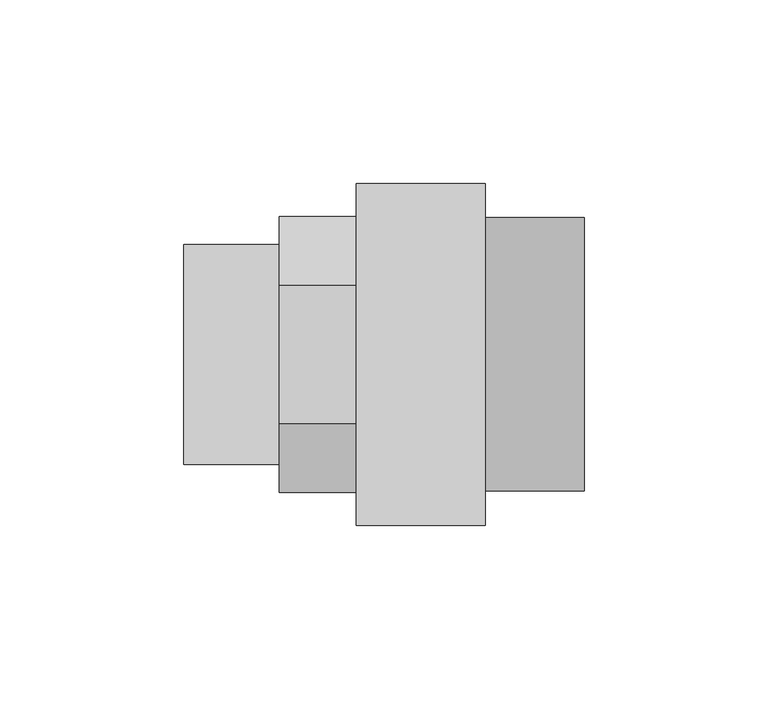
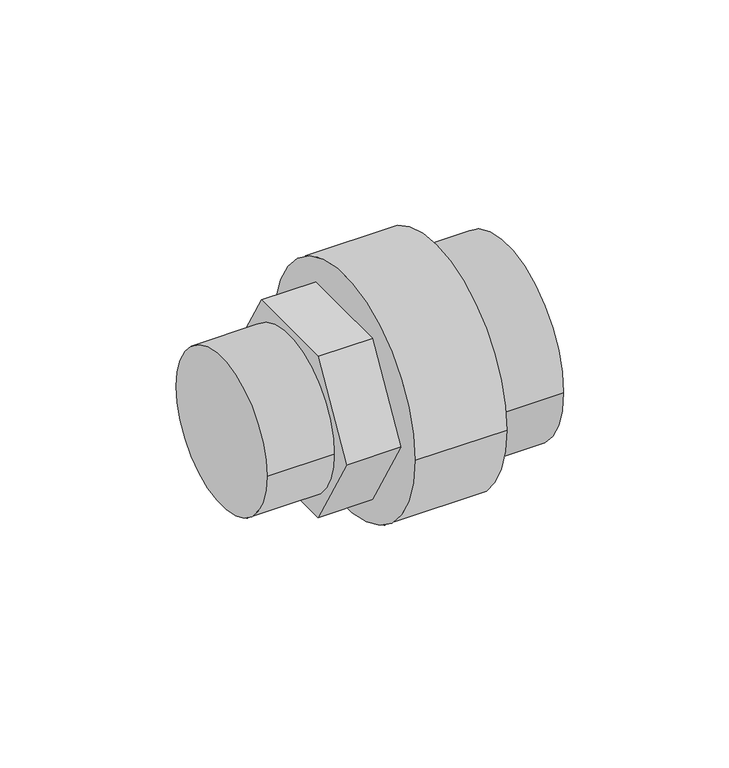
"""IFC4 building model written with IfcOpenShell, lengths in millimetres: pipe fitting geometry, 01011279 : Manchons union pour piscines FxM."""

import ifcopenshell
import ifcopenshell.guid

model = None  # the IFC model being written
_history = None  # IfcOwnerHistory: only IFC2X3 demands one
_inside = {}  # id of a spatial element -> (the spatial element, [elements in it])
_under = {}  # id of a project, library or spatial element -> (it, [spatial elements below it])
_declared = {}  # id of a project -> (the project, [libraries it declares])
_typed = {}  # id of a type object -> (the type object, [elements of that type])
_made_of = {}  # id of a material, layer set ... -> (it, [elements and type objects made of it])


def new_model(schema):
    """Start an empty IFC model of exactly this schema.

    Asked for "IFC4X3", IfcOpenShell would pick the latest addendum, in which some entities
    have other attributes; the version numbers below select the first issue.
    IFC2X3 requires an IfcOwnerHistory on every rooted entity: one is made here for all.
    """
    global model, _history
    if schema == "IFC4X3":
        model = ifcopenshell.file(schema_version=(4, 3, 0, 0))
    else:
        model = ifcopenshell.file(schema=schema)
    _inside.clear()
    _under.clear()
    _declared.clear()
    _typed.clear()
    _made_of.clear()
    _history = None
    if model.schema == "IFC2X3":
        org = make("IfcOrganization", Name="unknown")
        user = make(
            "IfcPersonAndOrganization",
            ThePerson=make("IfcPerson", FamilyName="unknown"),
            TheOrganization=org,
        )
        app = make(
            "IfcApplication",
            ApplicationDeveloper=org,
            Version="unknown",
            ApplicationFullName="unknown",
            ApplicationIdentifier="unknown",
        )
        _history = make(
            "IfcOwnerHistory",
            OwningUser=user,
            OwningApplication=app,
            ChangeAction="ADDED",
            CreationDate=0,
        )
    return model


def make(cls, **values):
    """One entity of the class cls with the attributes given. An attribute that is None is left unset."""
    return model.create_entity(
        cls, **{name: value for name, value in values.items() if value is not None}
    )


def rooted(cls, **values):
    """An entity with a GlobalId (a new one), such as an element, a storey or a relation."""
    return make(cls, GlobalId=ifcopenshell.guid.new(), OwnerHistory=_history, **values)


def si_unit(unit_type, name, prefix=None):
    """IfcSIUnit, for example si_unit("LENGTHUNIT", "METRE", prefix="MILLI")."""
    return make("IfcSIUnit", UnitType=unit_type, Prefix=prefix, Name=name)


def assignment(units):
    """IfcUnitAssignment: the units of a project."""
    return None if units is None else make("IfcUnitAssignment", Units=units)


def point(xyz):
    """IfcCartesianPoint."""
    return None if xyz is None else make("IfcCartesianPoint", Coordinates=xyz)


def direction(xyz):
    """IfcDirection."""
    return None if xyz is None else make("IfcDirection", DirectionRatios=xyz)


def frame(location, z_axis=None, x_axis=None):
    """IfcAxis2Placement3D, a coordinate frame: its origin and axes. An axis left out is left unset."""
    return make(
        "IfcAxis2Placement3D",
        Location=point(location),
        Axis=direction(z_axis),
        RefDirection=direction(x_axis),
    )


def frame_2d(location, x_axis=None):
    """IfcAxis2Placement2D, a coordinate frame in the plane: its origin and x axis."""
    return make(
        "IfcAxis2Placement2D", Location=point(location), RefDirection=direction(x_axis)
    )


def origin():
    """The frame at (0, 0, 0) with its axes left unset."""
    return frame((0.0, 0.0, 0.0))


def origin_2d():
    """The frame at (0, 0) in the plane with its x axis left unset."""
    return frame_2d((0.0, 0.0))


def place(relative_to, where):
    """IfcLocalPlacement: puts the frame where relative to a parent placement (None: the world)."""
    return make(
        "IfcLocalPlacement", PlacementRelTo=relative_to, RelativePlacement=where
    )


def context(
    kind, dimensions, precision=None, world=None, true_north=None, identifier=None
):
    """IfcGeometricRepresentationContext, for example the 3D "Model" context."""
    return make(
        "IfcGeometricRepresentationContext",
        ContextIdentifier=identifier,
        ContextType=kind,
        CoordinateSpaceDimension=dimensions,
        Precision=precision,
        WorldCoordinateSystem=world,
        TrueNorth=true_north,
    )


def project(units=None, contexts=None):
    """IfcProject with its units and contexts."""
    return rooted(
        "IfcProject",
        Name="project",
        RepresentationContexts=contexts,
        UnitsInContext=assignment(units),
    )


def spatial(cls, under=None, at=None, **own):
    """A site, building, storey or space (cls), placed at a placement, below another one or the project."""
    s = rooted(cls, ObjectPlacement=at, **own)
    if under is not None:
        _under.setdefault(under.id(), (under, []))[1].append(s)
    return s


def polyline(points):
    """IfcPolyline through the points."""
    return make("IfcPolyline", Points=[point(p) for p in points])


def circle_curve(where, radius):
    """IfcCircle in the frame where."""
    return make("IfcCircle", Position=where, Radius=radius)


def trimmed(basis, trim1, trim2, sense, master):
    """IfcTrimmedCurve: the piece of a basis curve between two trims."""
    return make(
        "IfcTrimmedCurve",
        BasisCurve=basis,
        Trim1=trim1,
        Trim2=trim2,
        SenseAgreement=sense,
        MasterRepresentation=master,
    )


def segment(curve, same_sense, transition):
    """IfcCompositeCurveSegment."""
    return make(
        "IfcCompositeCurveSegment",
        Transition=transition,
        SameSense=same_sense,
        ParentCurve=curve,
    )


def composite_curve(segments, self_intersect=None):
    """IfcCompositeCurve: segments joined end to end."""
    return make("IfcCompositeCurve", Segments=segments, SelfIntersect=self_intersect)


def outline(outer, holes=None, kind="AREA"):
    """IfcArbitraryClosedProfileDef: a profile drawn as a closed curve; with holes, ...WithVoids."""
    if holes is None:
        return make("IfcArbitraryClosedProfileDef", ProfileType=kind, OuterCurve=outer)
    return make(
        "IfcArbitraryProfileDefWithVoids",
        ProfileType=kind,
        OuterCurve=outer,
        InnerCurves=holes,
    )


def extrude(swept, where, along, depth):
    """IfcExtrudedAreaSolid: the profile swept, set in the frame where, extruded along a direction by depth."""
    return make(
        "IfcExtrudedAreaSolid",
        SweptArea=swept,
        Position=where,
        ExtrudedDirection=direction(along),
        Depth=depth,
    )


def shape(context_of_items, identifier, shape_type, items):
    """IfcShapeRepresentation: the items that make up one representation, for example the "Body"."""
    return make(
        "IfcShapeRepresentation",
        ContextOfItems=context_of_items,
        RepresentationIdentifier=identifier,
        RepresentationType=shape_type,
        Items=items,
    )


def source(mapping_origin, context_of_items, identifier, shape_type, items):
    """IfcRepresentationMap: a shape defined once, which mapped items show again and again."""
    return make(
        "IfcRepresentationMap",
        MappingOrigin=mapping_origin,
        MappedRepresentation=shape(context_of_items, identifier, shape_type, items),
    )


def transform(
    local_origin,
    x_axis=None,
    y_axis=None,
    z_axis=None,
    scale=None,
    scale2=None,
    scale3=None,
    uniform=True,
):
    """IfcCartesianTransformationOperator3D, or its non-uniform kind. x_axis, y_axis, z_axis: its Axis1, 2, 3."""
    if uniform:
        return make(
            "IfcCartesianTransformationOperator3D",
            Axis1=direction(x_axis),
            Axis2=direction(y_axis),
            LocalOrigin=point(local_origin),
            Scale=scale,
            Axis3=direction(z_axis),
        )
    return make(
        "IfcCartesianTransformationOperator3DnonUniform",
        Axis1=direction(x_axis),
        Axis2=direction(y_axis),
        LocalOrigin=point(local_origin),
        Scale=scale,
        Axis3=direction(z_axis),
        Scale2=scale2,
        Scale3=scale3,
    )


def mapped(mapping_source, mapping_target):
    """IfcMappedItem: shows the shape of a source again, moved by a transform."""
    return make(
        "IfcMappedItem", MappingSource=mapping_source, MappingTarget=mapping_target
    )


def made_of(thing, what):
    """Note that an element or type object is made of a material, layer set ...; save() writes the relation."""
    if what is not None:
        _made_of.setdefault(what.id(), (what, []))[1].append(thing)
    return thing


def element(
    cls,
    number,
    at=None,
    inside=None,
    cuts=None,
    type_object=None,
    material=None,
    context=None,
    identifier="Body",
    shape_type=None,
    held_by="IfcProductDefinitionShape",
    body=None,
    shapes=None,
    **own,
):
    """One element of the class cls, such as IfcWall. Its Tag is "e" and its number.

    at: its placement. inside: the storey or other place that contains it. cuts: it is an
    opening in that element (IfcRelVoidsElement). A single representation is given by context,
    identifier, shape_type and body (its items); several are given by shapes. held_by: the class
    of the entity that holds the representations. save() writes the other relations.
    """
    e = rooted(cls, Tag="e%d" % number, ObjectPlacement=at, **own)
    if body is not None:
        shapes = [shape(context, identifier, shape_type, body)]
    if shapes is not None:
        e.Representation = make(held_by, Representations=shapes)
    if inside is not None:
        _inside.setdefault(inside.id(), (inside, []))[1].append(e)
    if cuts is not None:
        rooted(
            "IfcRelVoidsElement", RelatingBuildingElement=cuts, RelatedOpeningElement=e
        )
    if type_object is not None:
        _typed.setdefault(type_object.id(), (type_object, []))[1].append(e)
    return made_of(e, material)


def aggregate(whole, parts):
    """IfcRelAggregates: a whole, such as a stair, and the parts it consists of."""
    return rooted("IfcRelAggregates", RelatingObject=whole, RelatedObjects=parts)


def save(model, path):
    """Write the relations noted so far, then the file.

    IfcRelAggregates (storeys below a building ...), IfcRelContainedInSpatialStructure (elements
    in a storey), IfcRelDefinesByType, IfcRelAssociatesMaterial and IfcRelDeclares: one each for
    every whole, place, type object, material and project.
    """
    for whole, parts in _under.values():
        aggregate(whole, parts)
    for where, things in _inside.values():
        rooted(
            "IfcRelContainedInSpatialStructure",
            RelatedElements=things,
            RelatingStructure=where,
        )
    for kind, things in _typed.values():
        rooted("IfcRelDefinesByType", RelatedObjects=things, RelatingType=kind)
    for what, things in _made_of.values():
        rooted("IfcRelAssociatesMaterial", RelatedObjects=things, RelatingMaterial=what)
    for by, libraries in _declared.values():
        rooted("IfcRelDeclares", RelatingContext=by, RelatedDefinitions=libraries)
    model.write(path)


def pipe_fitting_9c3668e2(model_context):
    return source(origin(), model_context, "Body", "SweptSolid", [
        extrude(outline(composite_curve([segment(trimmed(circle_curve(origin_2d(), 46.5), [point((46.5, 0.0))], [point((-46.5, 0.0))], False, "CARTESIAN"), True, "CONTINUOUS"), segment(trimmed(circle_curve(origin_2d(), 46.5), [point((-46.5, 0.0))], [point((46.5, 0.0))], False, "CARTESIAN"), True, "CONTINUOUS")], self_intersect=False)), frame((-21.0, 0.0, 0.0), z_axis=(1.0, 0.0, 0.0), x_axis=(0.0, 1.0, 0.0)), (0.0, 0.0, 1.0), 35.0),
        extrude(outline(polyline([(-18.7638837, 32.5), (18.7638837, 32.5), (37.5277675, 0.0), (18.7638837, -32.5), (-18.7638837, -32.5), (-37.5277675, 0.0), (-18.7638837, 32.5)])), frame((-42.0, 0.0, 0.0), z_axis=(1.0, 0.0, 0.0), x_axis=(0.0, 1.0, 0.0)), (0.0, 0.0, 1.0), 21.0),
        extrude(outline(composite_curve([segment(trimmed(circle_curve(origin_2d(), 29.925), [point((29.925, 0.0))], [point((-29.925, 0.0))], False, "CARTESIAN"), True, "CONTINUOUS"), segment(trimmed(circle_curve(origin_2d(), 29.925), [point((-29.925, 0.0))], [point((29.925, 0.0))], False, "CARTESIAN"), True, "CONTINUOUS")], self_intersect=False)), frame((-68.0, 0.0, 0.0), z_axis=(1.0, 0.0, 0.0), x_axis=(0.0, 1.0, 0.0)), (0.0, 0.0, 1.0), 26.0),
        extrude(outline(composite_curve([segment(trimmed(circle_curve(origin_2d(), 37.2), [point((-37.2, 0.0))], [point((37.2, 0.0))], False, "CARTESIAN"), True, "CONTINUOUS"), segment(trimmed(circle_curve(origin_2d(), 37.2), [point((37.2, 0.0))], [point((-37.2, 0.0))], False, "CARTESIAN"), True, "CONTINUOUS")], self_intersect=False)), frame((14.0, 0.0, 0.0), z_axis=(1.0, 0.0, 0.0), x_axis=(0.0, 1.0, 0.0)), (0.0, 0.0, 1.0), 27.0),
    ])


if __name__ == "__main__":
    model = new_model("IFC4")
    model_context = context("Model", 3, world=origin())
    ifc_project = project(units=[si_unit("LENGTHUNIT", "METRE", prefix="MILLI")], contexts=[model_context])
    site = spatial("IfcSite", under=ifc_project)
    building = spatial("IfcBuilding", under=site)
    placement = place(None, origin())
    pipe_fitting_shape = pipe_fitting_9c3668e2(model_context)
    element("IfcPipeFitting", 1, ObjectType="01011279 : Manchons union pour piscines FxM", at=placement, inside=building, context=model_context, shape_type="MappedRepresentation", body=[
        mapped(pipe_fitting_shape, transform((0.0, 0.0, 0.0), x_axis=(1.0, 0.0, 0.0), y_axis=(0.0, 1.0, 0.0), z_axis=(0.0, 0.0, 1.0))),
    ])
    save(model, "model.ifc")
